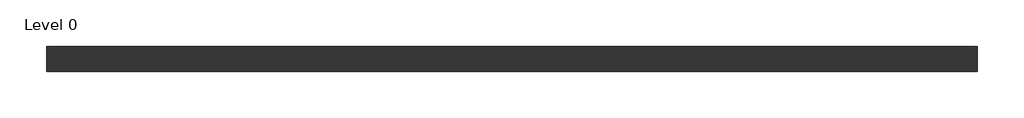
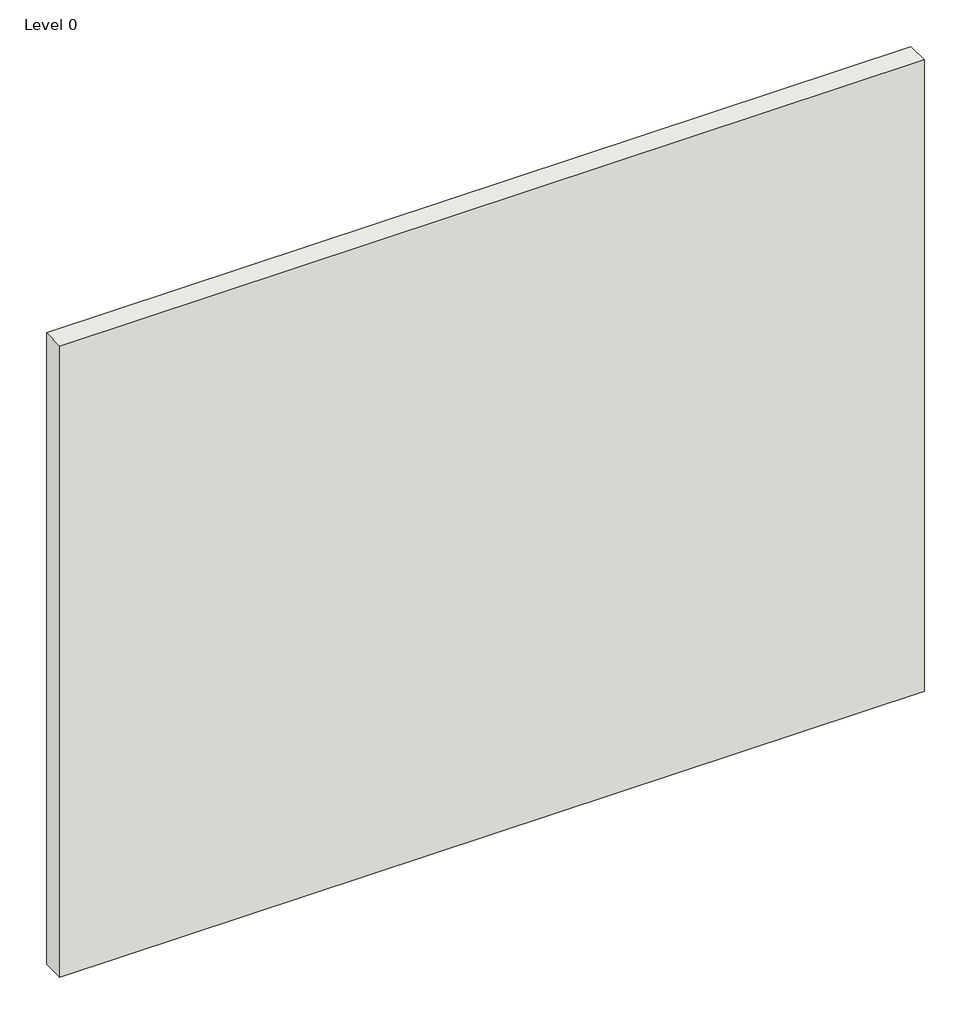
# One storey: 1 wall.
"""IFC4 building model written with IfcOpenShell, lengths in millimetres."""

from ifc_helpers import new_model, si_unit, origin, origin_with_axes, place, context, project, spatial, polyline, outline, extrude, element, save

model = new_model("IFC4")

# Units and contexts
model_context = context("Model", 3, world=origin())
ifc_project = project(units=[si_unit("LENGTHUNIT", "METRE", prefix="MILLI")], contexts=[model_context])

# Site, building, storey
site = spatial("IfcSite", under=ifc_project)
building = spatial("IfcBuilding", under=site)
storey = spatial("IfcBuildingStorey", under=building, Name="Level 0", Elevation=0.0)

# Wall
placement = place(None, origin())
element("IfcWall", 1, ObjectType="A306001 (b) - ShaftWall", at=placement, inside=storey, context=model_context, shape_type="SweptSolid", body=[
    extrude(outline(polyline([(2356.0807354, 550.2205641), (-883.9192646, 550.2205641), (-883.9192646, 637.2205641), (2356.0807354, 637.2205641), (2356.0807354, 550.2205641)])), origin_with_axes(), (0.0, 0.0, 1.0), 2500.0),
])

save(model, "model.ifc")
